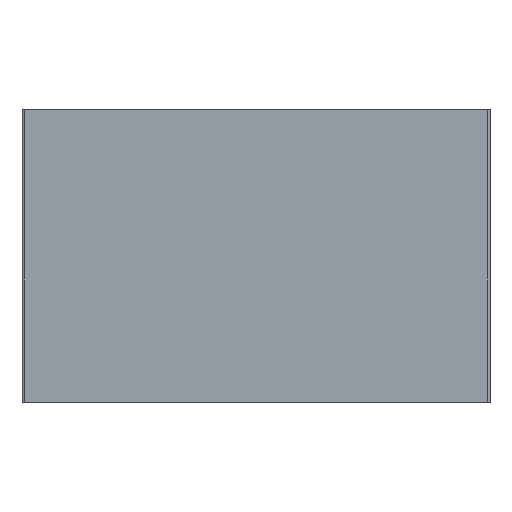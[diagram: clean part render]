
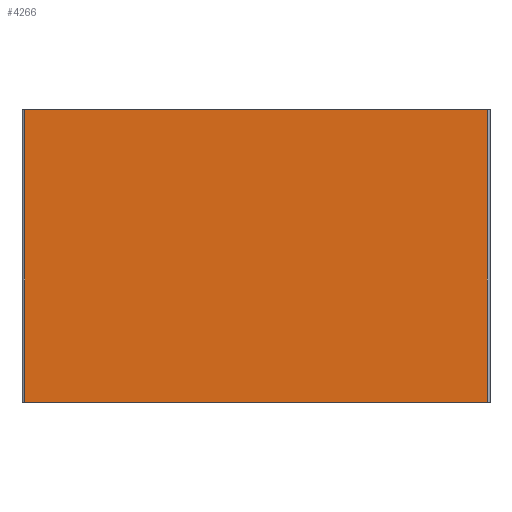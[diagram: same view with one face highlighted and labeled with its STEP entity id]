
A CAD part, top view. The second image highlights one B-rep face of the part: STEP entity #4266.
In plain terms, the highlighted planar face has unit normal (0, 0, 1).
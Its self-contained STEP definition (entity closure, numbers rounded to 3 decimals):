
#3 = EDGE_CURVE ( 'NONE', #7853, #145, #428, .T. ) ;
#145 = VERTEX_POINT ( 'NONE', #4702 ) ;
#428 = LINE ( 'NONE', #7888, #6331 ) ;
#508 = CARTESIAN_POINT ( 'NONE',  ( -79., 50., 8. ) ) ;
#574 = PLANE ( 'NONE',  #5756 ) ;
#1489 = EDGE_CURVE ( 'NONE', #11518, #7853, #10625, .T. ) ;
#1727 = LINE ( 'NONE', #11908, #11049 ) ;
#1871 = VECTOR ( 'NONE', #8848, 1000. ) ;
#2474 = ORIENTED_EDGE ( 'NONE', *, *, #3, .F. ) ;
#2667 = EDGE_CURVE ( 'NONE', #6063, #145, #1727, .T. ) ;
#3181 = DIRECTION ( 'NONE',  ( 0., -1., 0. ) ) ;
#3246 = DIRECTION ( 'NONE',  ( 0., -1., 0. ) ) ;
#4114 = DIRECTION ( 'NONE',  ( 0., 0., -1. ) ) ;
#4266 = ADVANCED_FACE ( 'NONE', ( #9692 ), #574, .F. ) ;
#4702 = CARTESIAN_POINT ( 'NONE',  ( 79., -50., 8. ) ) ;
#4992 = CARTESIAN_POINT ( 'NONE',  ( -79., 50., 8. ) ) ;
#5756 = AXIS2_PLACEMENT_3D ( 'NONE', #508, #4114, #10742 ) ;
#5787 = EDGE_LOOP ( 'NONE', ( #7925, #2474, #7650, #8602 ) ) ;
#5801 = CARTESIAN_POINT ( 'NONE',  ( -79., 50., 8. ) ) ;
#6063 = VERTEX_POINT ( 'NONE', #7305 ) ;
#6331 = VECTOR ( 'NONE', #3246, 1000. ) ;
#7305 = CARTESIAN_POINT ( 'NONE',  ( -79., -50., 8. ) ) ;
#7650 = ORIENTED_EDGE ( 'NONE', *, *, #1489, .F. ) ;
#7853 = VERTEX_POINT ( 'NONE', #9571 ) ;
#7888 = CARTESIAN_POINT ( 'NONE',  ( 79., 50., 8. ) ) ;
#7925 = ORIENTED_EDGE ( 'NONE', *, *, #2667, .T. ) ;
#8080 = LINE ( 'NONE', #10665, #8496 ) ;
#8231 = DIRECTION ( 'NONE',  ( 1., 0., 0. ) ) ;
#8496 = VECTOR ( 'NONE', #3181, 1000. ) ;
#8602 = ORIENTED_EDGE ( 'NONE', *, *, #9999, .T. ) ;
#8848 = DIRECTION ( 'NONE',  ( 1., 0., 0. ) ) ;
#9571 = CARTESIAN_POINT ( 'NONE',  ( 79., 50., 8. ) ) ;
#9692 = FACE_OUTER_BOUND ( 'NONE', #5787, .T. ) ;
#9999 = EDGE_CURVE ( 'NONE', #11518, #6063, #8080, .T. ) ;
#10625 = LINE ( 'NONE', #4992, #1871 ) ;
#10665 = CARTESIAN_POINT ( 'NONE',  ( -79., 50., 8. ) ) ;
#10742 = DIRECTION ( 'NONE',  ( -1., 0., 0. ) ) ;
#11049 = VECTOR ( 'NONE', #8231, 1000. ) ;
#11518 = VERTEX_POINT ( 'NONE', #5801 ) ;
#11908 = CARTESIAN_POINT ( 'NONE',  ( -79., -50., 8. ) ) ;
